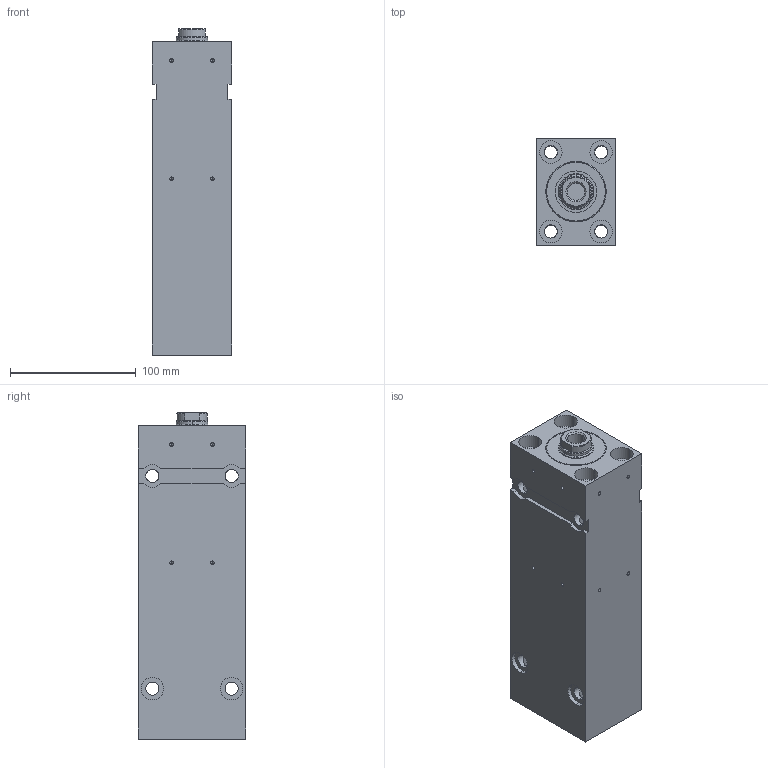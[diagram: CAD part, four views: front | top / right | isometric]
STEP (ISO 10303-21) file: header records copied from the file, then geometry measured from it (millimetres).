
FILE_DESCRIPTION (( 'STEP AP203' ), '1' );
FILE_NAME ('BZ_320.40_25.78.201.160 PP.KBC40__DH_0_.STEP', '2022-05-09T16:37:40', ( '' ), ( '' ), 'SwSTEP 2.0', 'SolidWorks 2020', '' );
FILE_SCHEMA (( 'CONFIG_CONTROL_DESIGN' ));
Length unit declared in the file: millimetre
Products named in the file (7): _Gehaeuse f. BZ320.40_25.Fehler in IDBF.201.160Fehler in IDNT00(1340frei278000))7^BZ_320.40_25.78.201.160 PP.KBC40__DH_0_(2)_BZ_320.40_25.78.201.160 PP.KBC40__DH_0_; BZ_320.40_25.78.201.160 PP.KBC40__DH_0_; _Verschraubung komplett mit Dichtung f. BZ_RZ_FZ.40_25.201, Art.-Nr._ 041752(201)^BZ_320.40_25.78.201.160 PP.KBC40__DH_0_(2)_BZ_320.40_25.78.201.160 PP.KBC40__DH_0_; BZ_320.40_25.78.201.160 PP.KBC40__DH_0_(2)^BZ_320.40_25.78.201.160 PP.KBC40__DH_0_; _Kolbenstange komplett f. BZ_RZ_FZ.40_25.xx.201.160(0_11 1 16 2 0 0 10 25 0 0 0)0^BZ_320.40_25.78.201.160 PP.KBC40__DH_0_(2)_BZ_320.40_25.78.201.160 PP.KBC40__DH_0_; _Dichtungssatz f. BZ_RZ_FZ.40_25.xx.201.160 Artikelnr._ 051110(0)^BZ_320.40_25.78.201.160 PP.KBC40__DH_0_(2)_BZ_320.40_25.78.201.160 PP.KBC40__DH_0_; _Verschraubung hinten komplett mit Dichtung f. BZ500.40_25 LLL^BZ_320.40_25.78.201.160 PP.KBC40__DH_0_(2)_BZ_320.40_25.78.201.160 PP.KBC40__DH_0_
Assembly tree (6 placements, depth 3):
  BZ_320.40_25.78.201.160 PP.KBC40__DH_0_
    BZ_320.40_25.78.201.160 PP.KBC40__DH_0_(2)^BZ_320.40_25.78.201.160 PP.KBC40__DH_0_
      _Gehaeuse f. BZ320.40_25.Fehler in IDBF.201.160Fehler in IDNT00(1340frei278000))7^BZ_320.40_25.78.201.160 PP.KBC40__DH_0_(2)_BZ_320.40_25.78.201.160 PP.KBC40__DH_0_
      _Verschraubung hinten komplett mit Dichtung f. BZ500.40_25 LLL^BZ_320.40_25.78.201.160 PP.KBC40__DH_0_(2)_BZ_320.40_25.78.201.160 PP.KBC40__DH_0_
      _Verschraubung komplett mit Dichtung f. BZ_RZ_FZ.40_25.201, Art.-Nr._ 041752(201)^BZ_320.40_25.78.201.160 PP.KBC40__DH_0_(2)_BZ_320.40_25.78.201.160 PP.KBC40__DH_0_
      _Dichtungssatz f. BZ_RZ_FZ.40_25.xx.201.160 Artikelnr._ 051110(0)^BZ_320.40_25.78.201.160 PP.KBC40__DH_0_(2)_BZ_320.40_25.78.201.160 PP.KBC40__DH_0_
      _Kolbenstange komplett f. BZ_RZ_FZ.40_25.xx.201.160(0_11 1 16 2 0 0 10 25 0 0 0)0^BZ_320.40_25.78.201.160 PP.KBC40__DH_0_(2)_BZ_320.40_25.78.201.160 PP.KBC40__DH_0_
Bounding box: 63 x 85 x 259 mm (x, y, z)
Volume: 1080862.6 mm3; surface area: 197494.8 mm2
Topology: 5 solids, 5 shells, 245 faces, 608 edges, 364 vertices
Faces by surface type: cylinder 150, plane 57, cone 38
Entity records: 8114 total; most frequent: CARTESIAN_POINT 1622, DIRECTION 1270, ORIENTED_EDGE 1168, EDGE_CURVE 584, AXIS2_PLACEMENT_3D 507, VERTEX_POINT 364, EDGE_LOOP 302, LINE 256
